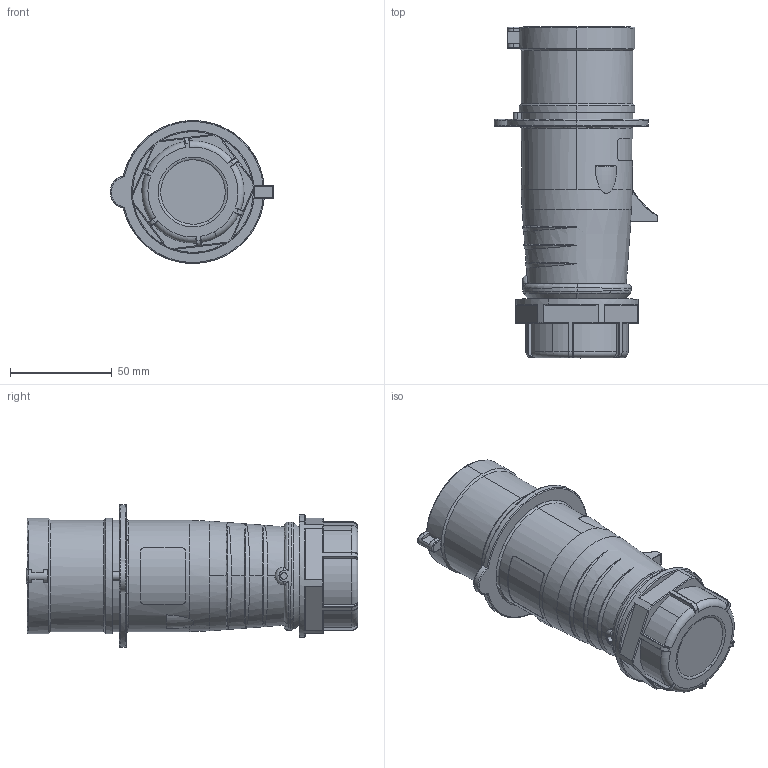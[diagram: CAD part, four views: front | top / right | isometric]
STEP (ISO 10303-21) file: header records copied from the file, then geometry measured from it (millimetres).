
FILE_DESCRIPTION (( 'STEP AP203' ), '1' );
FILE_NAME ('DIS2133233 (CP 3p 32ﾀ 230ﾂ IP44).STEP', '2024-09-17T04:31:39', ( '' ), ( '' ), 'SwSTEP 2.0', 'SolidWorks 2022', '' );
FILE_SCHEMA (( 'CONFIG_CONTROL_DESIGN' ));
Length unit declared in the file: millimetre
Products named in the file (1): DIS2133233 (CP 3p 32А 230В IP44)
Bounding box: 80.65 x 163.5 x 70.4 mm (x, y, z)
Volume: 290764.9 mm3; surface area: 51932.9 mm2
Topology: 1 solids, 2 shells, 436 faces, 1158 edges, 730 vertices
Faces by surface type: cylinder 178, plane 122, torus 88, cone 26, bspline 14, sphere 8
Entity records: 18745 total; most frequent: CARTESIAN_POINT 8442, ORIENTED_EDGE 2308, DIRECTION 1965, EDGE_CURVE 1154, AXIS2_PLACEMENT_3D 804, VERTEX_POINT 730, EDGE_LOOP 456, ADVANCED_FACE 436
